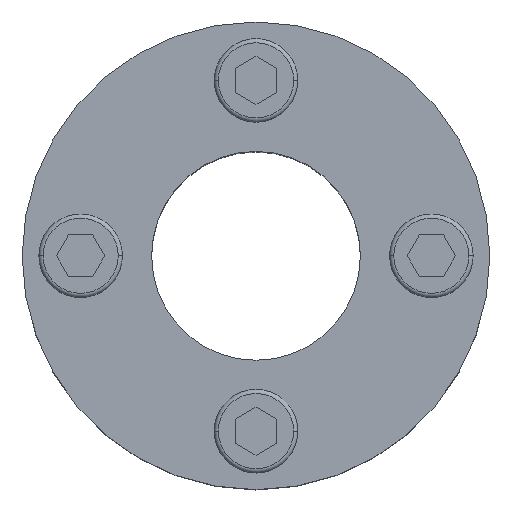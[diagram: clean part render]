
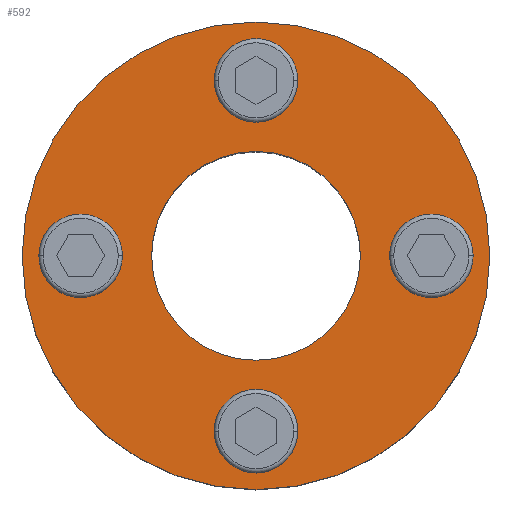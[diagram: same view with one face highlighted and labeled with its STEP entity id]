
A CAD part, top view. The second image highlights one B-rep face of the part: STEP entity #592.
In plain terms, the highlighted planar face has unit normal (0, 0, 1).
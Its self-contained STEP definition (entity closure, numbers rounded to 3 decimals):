
#13 = EDGE_CURVE ( 'NONE', #1499, #1189, #884, .T. ) ;
#14 = CARTESIAN_POINT ( 'NONE',  ( 12.5, 0., 0. ) ) ;
#20 = CARTESIAN_POINT ( 'NONE',  ( -16., 0., 0. ) ) ;
#27 = CARTESIAN_POINT ( 'NONE',  ( -5., 21., 0. ) ) ;
#52 = CIRCLE ( 'NONE', #240, 5. ) ;
#54 = VERTEX_POINT ( 'NONE', #1635 ) ;
#89 = DIRECTION ( 'NONE',  ( 0., 0., 1. ) ) ;
#90 = FACE_BOUND ( 'NONE', #511, .T. ) ;
#103 = CARTESIAN_POINT ( 'NONE',  ( 0., -21., 0. ) ) ;
#133 = EDGE_CURVE ( 'NONE', #1189, #1499, #1574, .T. ) ;
#153 = CARTESIAN_POINT ( 'NONE',  ( -12.5, 0., 0. ) ) ;
#158 = EDGE_CURVE ( 'NONE', #947, #1354, #928, .T. ) ;
#240 = AXIS2_PLACEMENT_3D ( 'NONE', #608, #89, #1651 ) ;
#292 = DIRECTION ( 'NONE',  ( 0., 0., -1. ) ) ;
#308 = CIRCLE ( 'NONE', #1177, 5. ) ;
#313 = CARTESIAN_POINT ( 'NONE',  ( 21., 0., 0. ) ) ;
#323 = CIRCLE ( 'NONE', #1244, 12.5 ) ;
#332 = DIRECTION ( 'NONE',  ( 1., 0., 0. ) ) ;
#336 = ORIENTED_EDGE ( 'NONE', *, *, #158, .F. ) ;
#343 = DIRECTION ( 'NONE',  ( 0., 0., 1. ) ) ;
#359 = DIRECTION ( 'NONE',  ( 1., 0., 0. ) ) ;
#365 = CIRCLE ( 'NONE', #643, 5. ) ;
#394 = AXIS2_PLACEMENT_3D ( 'NONE', #1123, #1216, #1628 ) ;
#399 = VERTEX_POINT ( 'NONE', #14 ) ;
#405 = CARTESIAN_POINT ( 'NONE',  ( 16., 0., 0. ) ) ;
#417 = CARTESIAN_POINT ( 'NONE',  ( -28., 0., 0. ) ) ;
#418 = ORIENTED_EDGE ( 'NONE', *, *, #1569, .F. ) ;
#427 = DIRECTION ( 'NONE',  ( 0., 0., 1. ) ) ;
#448 = DIRECTION ( 'NONE',  ( -1., 0., 0. ) ) ;
#504 = ORIENTED_EDGE ( 'NONE', *, *, #13, .F. ) ;
#511 = EDGE_LOOP ( 'NONE', ( #1124, #336 ) ) ;
#516 = AXIS2_PLACEMENT_3D ( 'NONE', #724, #992, #359 ) ;
#519 = FACE_BOUND ( 'NONE', #874, .T. ) ;
#521 = DIRECTION ( 'NONE',  ( 0., 0., 1. ) ) ;
#527 = ORIENTED_EDGE ( 'NONE', *, *, #133, .F. ) ;
#553 = DIRECTION ( 'NONE',  ( -1., 0., 0. ) ) ;
#561 = AXIS2_PLACEMENT_3D ( 'NONE', #1545, #1556, #1029 ) ;
#564 = DIRECTION ( 'NONE',  ( 0., 0., 1. ) ) ;
#580 = FACE_OUTER_BOUND ( 'NONE', #1006, .T. ) ;
#586 = DIRECTION ( 'NONE',  ( 0., 0., 1. ) ) ;
#588 = CARTESIAN_POINT ( 'NONE',  ( 0., 0., 0. ) ) ;
#592 = ADVANCED_FACE ( 'NONE', ( #1305, #1217, #90, #1603, #519, #580 ), #1599, .F. ) ;
#602 = CIRCLE ( 'NONE', #1633, 5. ) ;
#608 = CARTESIAN_POINT ( 'NONE',  ( -21., 0., 0. ) ) ;
#621 = DIRECTION ( 'NONE',  ( 1., 0., 0. ) ) ;
#624 = CARTESIAN_POINT ( 'NONE',  ( 5., -21., 0. ) ) ;
#630 = ORIENTED_EDGE ( 'NONE', *, *, #1594, .F. ) ;
#642 = CIRCLE ( 'NONE', #805, 12.5 ) ;
#643 = AXIS2_PLACEMENT_3D ( 'NONE', #1109, #1383, #1248 ) ;
#717 = AXIS2_PLACEMENT_3D ( 'NONE', #852, #1257, #621 ) ;
#720 = DIRECTION ( 'NONE',  ( 1., 0., 0. ) ) ;
#724 = CARTESIAN_POINT ( 'NONE',  ( 0., 0., 0. ) ) ;
#735 = ORIENTED_EDGE ( 'NONE', *, *, #808, .T. ) ;
#805 = AXIS2_PLACEMENT_3D ( 'NONE', #588, #343, #720 ) ;
#808 = EDGE_CURVE ( 'NONE', #1479, #1143, #1116, .T. ) ;
#826 = VERTEX_POINT ( 'NONE', #1250 ) ;
#845 = CARTESIAN_POINT ( 'NONE',  ( 5., 21., 0. ) ) ;
#852 = CARTESIAN_POINT ( 'NONE',  ( 0., 0., 0. ) ) ;
#874 = EDGE_LOOP ( 'NONE', ( #1411, #418 ) ) ;
#875 = EDGE_LOOP ( 'NONE', ( #1026, #948 ) ) ;
#884 = CIRCLE ( 'NONE', #394, 5. ) ;
#910 = DIRECTION ( 'NONE',  ( -1., 0., 0. ) ) ;
#922 = ORIENTED_EDGE ( 'NONE', *, *, #960, .F. ) ;
#928 = CIRCLE ( 'NONE', #1506, 5. ) ;
#947 = VERTEX_POINT ( 'NONE', #624 ) ;
#948 = ORIENTED_EDGE ( 'NONE', *, *, #1256, .F. ) ;
#952 = CARTESIAN_POINT ( 'NONE',  ( 0., 0., 0. ) ) ;
#960 = EDGE_CURVE ( 'NONE', #1485, #54, #602, .T. ) ;
#970 = EDGE_LOOP ( 'NONE', ( #922, #630 ) ) ;
#992 = DIRECTION ( 'NONE',  ( 0., 0., 1. ) ) ;
#1006 = EDGE_LOOP ( 'NONE', ( #1012, #735 ) ) ;
#1012 = ORIENTED_EDGE ( 'NONE', *, *, #1350, .T. ) ;
#1022 = CARTESIAN_POINT ( 'NONE',  ( 21., 0., 0. ) ) ;
#1026 = ORIENTED_EDGE ( 'NONE', *, *, #1340, .F. ) ;
#1029 = DIRECTION ( 'NONE',  ( -1., 0., 0. ) ) ;
#1109 = CARTESIAN_POINT ( 'NONE',  ( -21., 0., 0. ) ) ;
#1116 = CIRCLE ( 'NONE', #516, 28. ) ;
#1122 = DIRECTION ( 'NONE',  ( 0., 0., 1. ) ) ;
#1123 = CARTESIAN_POINT ( 'NONE',  ( 0., 21., 0. ) ) ;
#1124 = ORIENTED_EDGE ( 'NONE', *, *, #1503, .F. ) ;
#1143 = VERTEX_POINT ( 'NONE', #1360 ) ;
#1174 = CARTESIAN_POINT ( 'NONE',  ( -12.5, 0., 0. ) ) ;
#1177 = AXIS2_PLACEMENT_3D ( 'NONE', #1570, #427, #910 ) ;
#1189 = VERTEX_POINT ( 'NONE', #845 ) ;
#1215 = EDGE_CURVE ( 'NONE', #399, #1419, #642, .T. ) ;
#1216 = DIRECTION ( 'NONE',  ( 0., 0., 1. ) ) ;
#1217 = FACE_BOUND ( 'NONE', #970, .T. ) ;
#1244 = AXIS2_PLACEMENT_3D ( 'NONE', #952, #586, #332 ) ;
#1248 = DIRECTION ( 'NONE',  ( -1., 0., 0. ) ) ;
#1250 = CARTESIAN_POINT ( 'NONE',  ( -26., 0., 0. ) ) ;
#1256 = EDGE_CURVE ( 'NONE', #1505, #826, #365, .T. ) ;
#1257 = DIRECTION ( 'NONE',  ( 0., 0., 1. ) ) ;
#1276 = EDGE_LOOP ( 'NONE', ( #504, #527 ) ) ;
#1293 = AXIS2_PLACEMENT_3D ( 'NONE', #153, #292, #553 ) ;
#1305 = FACE_BOUND ( 'NONE', #1276, .T. ) ;
#1340 = EDGE_CURVE ( 'NONE', #826, #1505, #52, .T. ) ;
#1350 = EDGE_CURVE ( 'NONE', #1143, #1479, #1513, .T. ) ;
#1354 = VERTEX_POINT ( 'NONE', #1530 ) ;
#1360 = CARTESIAN_POINT ( 'NONE',  ( 28., 0., 0. ) ) ;
#1383 = DIRECTION ( 'NONE',  ( 0., 0., 1. ) ) ;
#1386 = AXIS2_PLACEMENT_3D ( 'NONE', #313, #564, #448 ) ;
#1404 = CIRCLE ( 'NONE', #1386, 5. ) ;
#1406 = DIRECTION ( 'NONE',  ( -1., 0., 0. ) ) ;
#1411 = ORIENTED_EDGE ( 'NONE', *, *, #1215, .F. ) ;
#1419 = VERTEX_POINT ( 'NONE', #1174 ) ;
#1422 = DIRECTION ( 'NONE',  ( -1., 0., 0. ) ) ;
#1479 = VERTEX_POINT ( 'NONE', #417 ) ;
#1485 = VERTEX_POINT ( 'NONE', #405 ) ;
#1499 = VERTEX_POINT ( 'NONE', #27 ) ;
#1503 = EDGE_CURVE ( 'NONE', #1354, #947, #308, .T. ) ;
#1505 = VERTEX_POINT ( 'NONE', #20 ) ;
#1506 = AXIS2_PLACEMENT_3D ( 'NONE', #103, #521, #1422 ) ;
#1513 = CIRCLE ( 'NONE', #717, 28. ) ;
#1530 = CARTESIAN_POINT ( 'NONE',  ( -5., -21., 0. ) ) ;
#1545 = CARTESIAN_POINT ( 'NONE',  ( 0., 21., 0. ) ) ;
#1556 = DIRECTION ( 'NONE',  ( 0., 0., 1. ) ) ;
#1569 = EDGE_CURVE ( 'NONE', #1419, #399, #323, .T. ) ;
#1570 = CARTESIAN_POINT ( 'NONE',  ( 0., -21., 0. ) ) ;
#1574 = CIRCLE ( 'NONE', #561, 5. ) ;
#1594 = EDGE_CURVE ( 'NONE', #54, #1485, #1404, .T. ) ;
#1599 = PLANE ( 'NONE',  #1293 ) ;
#1603 = FACE_BOUND ( 'NONE', #875, .T. ) ;
#1628 = DIRECTION ( 'NONE',  ( -1., 0., 0. ) ) ;
#1633 = AXIS2_PLACEMENT_3D ( 'NONE', #1022, #1122, #1406 ) ;
#1635 = CARTESIAN_POINT ( 'NONE',  ( 26., 0., 0. ) ) ;
#1651 = DIRECTION ( 'NONE',  ( -1., 0., 0. ) ) ;
